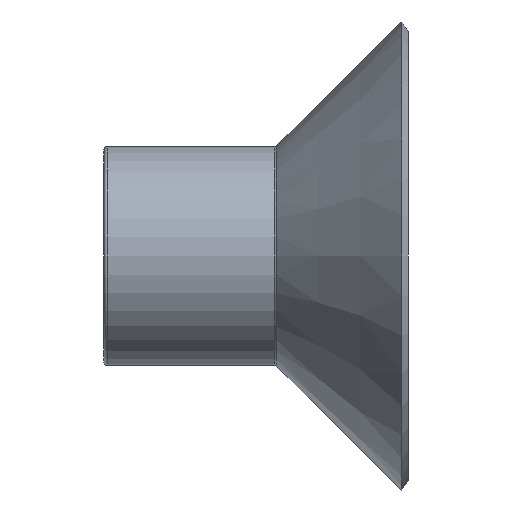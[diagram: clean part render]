
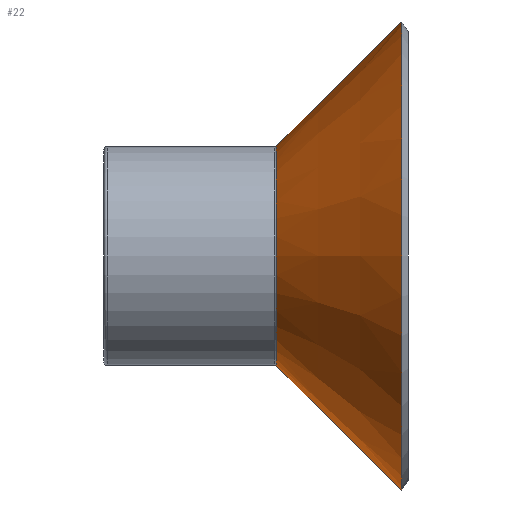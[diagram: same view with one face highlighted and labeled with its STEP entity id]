
A CAD part, left-side view. The second image highlights one B-rep face of the part: STEP entity #22.
In plain terms, the highlighted conical face has half-angle 44.644 degrees and reference radius 7 mm.
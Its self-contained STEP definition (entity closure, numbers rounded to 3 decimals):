
#2 = VERTEX_POINT ( 'NONE', #8 ) ;
#8 = CARTESIAN_POINT ( 'NONE',  ( 0., -11.058, -7.058 ) ) ;
#9 = AXIS2_PLACEMENT_3D ( 'NONE', #206, #396, #338 ) ;
#22 = ADVANCED_FACE ( 'NONE', ( #603 ), #322, .T. ) ;
#62 = CARTESIAN_POINT ( 'NONE',  ( 0., -11., 7. ) ) ;
#69 = EDGE_CURVE ( 'NONE', #809, #2, #810, .T. ) ;
#88 = DIRECTION ( 'NONE',  ( 0., -1., 0. ) ) ;
#96 = DIRECTION ( 'NONE',  ( 0., -0.711, -0.703 ) ) ;
#97 = LINE ( 'NONE', #288, #471 ) ;
#152 = CARTESIAN_POINT ( 'NONE',  ( 0., -19.1, 15. ) ) ;
#187 = VERTEX_POINT ( 'NONE', #152 ) ;
#206 = CARTESIAN_POINT ( 'NONE',  ( 0., -11.058, 0. ) ) ;
#224 = EDGE_CURVE ( 'NONE', #308, #187, #761, .T. ) ;
#230 = EDGE_CURVE ( 'NONE', #2, #308, #97, .T. ) ;
#288 = CARTESIAN_POINT ( 'NONE',  ( 0., -11., -7. ) ) ;
#291 = ORIENTED_EDGE ( 'NONE', *, *, #69, .T. ) ;
#308 = VERTEX_POINT ( 'NONE', #818 ) ;
#322 = CONICAL_SURFACE ( 'NONE', #620, 7., 0.779 ) ;
#338 = DIRECTION ( 'NONE',  ( 0., 0., -1. ) ) ;
#367 = ORIENTED_EDGE ( 'NONE', *, *, #230, .T. ) ;
#385 = ORIENTED_EDGE ( 'NONE', *, *, #224, .T. ) ;
#396 = DIRECTION ( 'NONE',  ( 0., -1., 0. ) ) ;
#409 = VECTOR ( 'NONE', #509, 1000. ) ;
#422 = ORIENTED_EDGE ( 'NONE', *, *, #581, .F. ) ;
#471 = VECTOR ( 'NONE', #96, 1000. ) ;
#475 = DIRECTION ( 'NONE',  ( 0., 1., 0. ) ) ;
#477 = DIRECTION ( 'NONE',  ( 0., 0., 1. ) ) ;
#494 = CARTESIAN_POINT ( 'NONE',  ( 0., -11.058, 7.058 ) ) ;
#509 = DIRECTION ( 'NONE',  ( 0., -0.711, 0.703 ) ) ;
#538 = CARTESIAN_POINT ( 'NONE',  ( 0., -19.1, 0. ) ) ;
#573 = LINE ( 'NONE', #62, #409 ) ;
#581 = EDGE_CURVE ( 'NONE', #809, #187, #573, .T. ) ;
#603 = FACE_OUTER_BOUND ( 'NONE', #815, .T. ) ;
#620 = AXIS2_PLACEMENT_3D ( 'NONE', #713, #88, #665 ) ;
#641 = AXIS2_PLACEMENT_3D ( 'NONE', #538, #475, #477 ) ;
#665 = DIRECTION ( 'NONE',  ( 0., 0., -1. ) ) ;
#713 = CARTESIAN_POINT ( 'NONE',  ( 0., -11., 0. ) ) ;
#761 = CIRCLE ( 'NONE', #641, 15. ) ;
#809 = VERTEX_POINT ( 'NONE', #494 ) ;
#810 = CIRCLE ( 'NONE', #9, 7.058 ) ;
#815 = EDGE_LOOP ( 'NONE', ( #422, #291, #367, #385 ) ) ;
#818 = CARTESIAN_POINT ( 'NONE',  ( 0., -19.1, -15. ) ) ;
